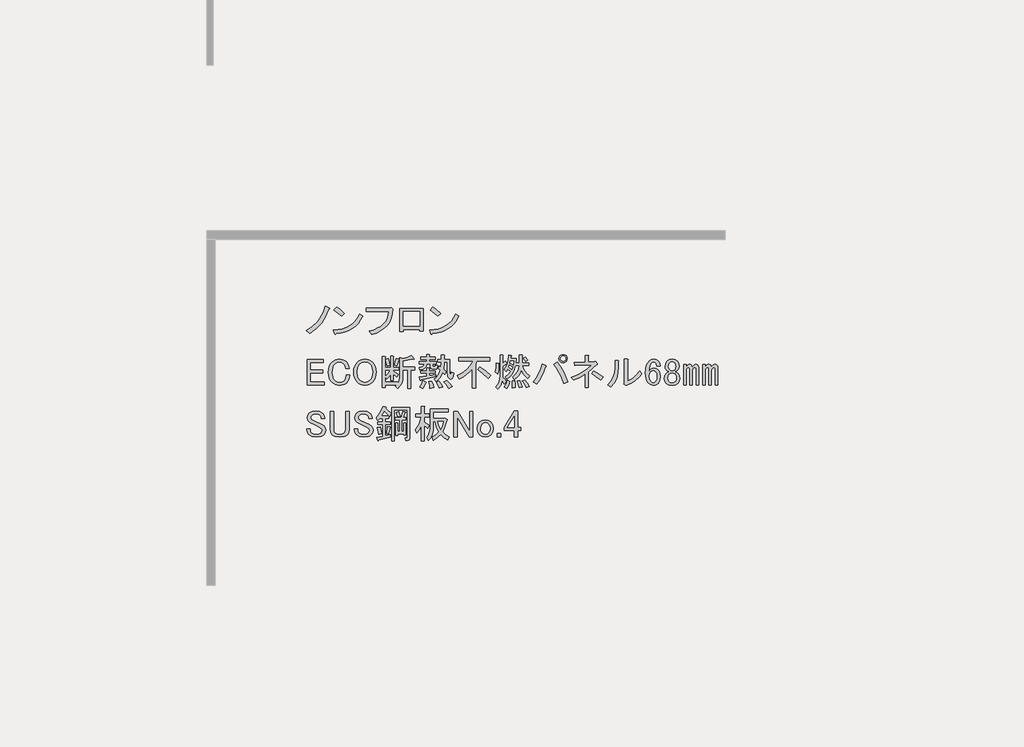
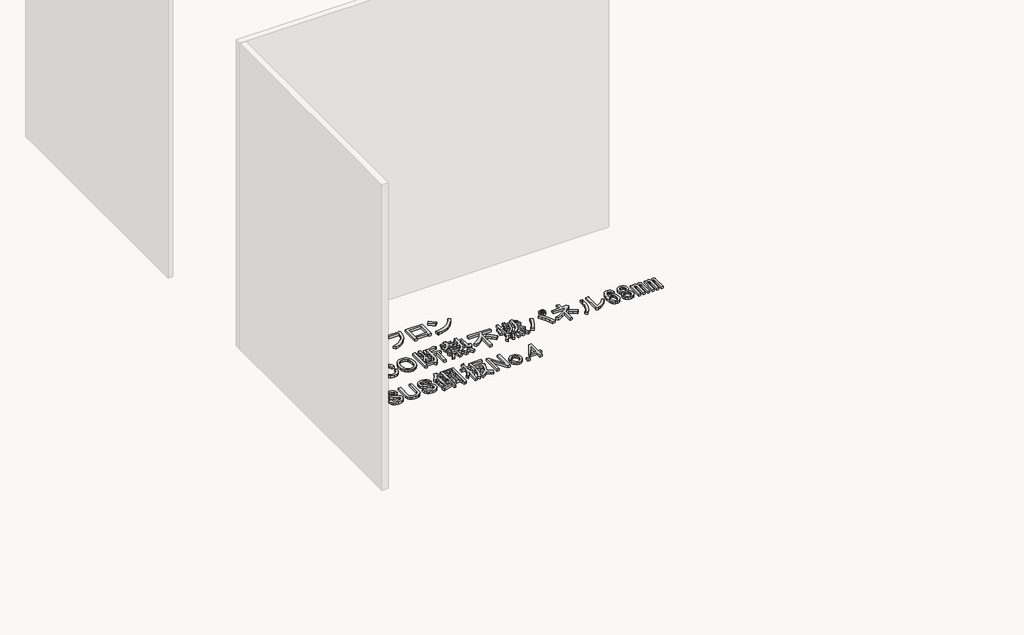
# One storey, part 106 of 117: 1 proxy.
"""IFC4 building model written with IfcOpenShell, lengths in millimetres."""

from ifc_helpers import new_model, si_unit, frame, origin, place, context, project, spatial, polyline, outline, extrude, element, save

model = new_model("IFC4")

# Units and contexts
model_context = context("Model", 3, world=origin())
ifc_project = project(units=[si_unit("LENGTHUNIT", "METRE", prefix="MILLI")], contexts=[model_context])

# Site, building, storey
site = spatial("IfcSite", under=ifc_project)
building = spatial("IfcBuilding", under=site)
storey = spatial("IfcBuildingStorey", under=building, Name="レベル 1", Elevation=500.0)

# Proxy
placement = place(None, origin())
element("IfcBuildingElementProxy", 1, Name="200㎜\u3000MS Pゴシック", ObjectType="200㎜\u3000MS Pゴシック", at=placement, inside=storey, context=model_context, shape_type="SweptSolid", body=[
    extrude(outline(polyline([(48940.1706985, 3396.4503118), (48914.5952502, 3336.6784775), (48886.146156, 3290.7001434), (48844.4782907, 3245.2965385), (48795.3389462, 3207.939142), (48767.7519457, 3229.7788507), (48815.4544673, 3260.2394971), (48855.1107805, 3298.7463519), (48872.4963381, 3322.6694538), (48887.8703435, 3350.7593423), (48901.2327969, 3383.0160173), (48912.5836981, 3419.4394788), (48943.6190736, 3405.6459786), (48946.7800841, 3401.0481452), (48940.1706985, 3396.4503118)])), frame((0.0, 0.0, 500.0), z_axis=(0.0, 0.0, 1.0), x_axis=(1.0, 0.0, 0.0)), (0.0, 0.0, 1.0), 25.0),
    extrude(outline(polyline([(49039.8977052, 3341.2763109), (48981.2753292, 3388.4041033), (49000.8161212, 3412.5427287), (49028.1157571, 3392.7145721), (49061.7374138, 3363.1160196), (49039.8977052, 3341.2763109)])), frame((0.0, 0.0, 500.0), z_axis=(0.0, 0.0, 1.0), x_axis=(1.0, 0.0, 0.0)), (0.0, 0.0, 1.0), 25.0),
    extrude(outline(polyline([(49201.9713328, 3341.2763109), (49185.447869, 3311.534076), (49166.3381239, 3285.5275808), (49144.6420975, 3263.2568252), (49120.3597898, 3244.7218093), (49093.4912008, 3229.922533), (49064.0363306, 3218.8589964), (49031.995179, 3211.5311994), (48997.3677461, 3207.939142), (48991.6204544, 3199.8929336), (48985.8731626, 3205.6402253), (48976.6774958, 3235.5261425), (49012.5082679, 3238.2022252), (49045.2857912, 3244.5062859), (49075.0100658, 3254.4383244), (49101.6810916, 3267.9983409), (49125.2988687, 3285.1863354), (49145.863397, 3306.0023077), (49163.3746766, 3330.446258), (49177.8327074, 3358.5181862), (49201.9713328, 3341.2763109)])), frame((0.0, 0.0, 500.0), z_axis=(0.0, 0.0, 1.0), x_axis=(1.0, 0.0, 0.0)), (0.0, 0.0, 1.0), 25.0),
    extrude(outline(polyline([(49252.7314136, 3226.3304757), (49286.514713, 3236.0110702), (49316.0234641, 3248.3857078), (49341.257667, 3263.4543884), (49362.2173217, 3281.217112), (49378.902428, 3301.6738786), (49391.3129862, 3324.8246882), (49399.4489961, 3350.6695409), (49403.3104577, 3379.2084365), (49230.8917049, 3379.2084365), (49230.8917049, 3404.4965202), (49405.6093744, 3404.4965202), (49421.7017914, 3407.9448953), (49434.3458332, 3396.4503118), (49430.825617, 3359.9550091), (49422.5638851, 3326.9080815), (49409.5606375, 3297.3095289), (49391.8158742, 3271.1593514), (49369.3295952, 3248.457549), (49342.1018005, 3229.2041216), (49310.1324901, 3213.3990692), (49273.421664, 3201.0423919), (49252.7314136, 3226.3304757)])), frame((0.0, 0.0, 500.0), z_axis=(0.0, 0.0, 1.0), x_axis=(1.0, 0.0, 0.0)), (0.0, 0.0, 1.0), 25.0),
    extrude(outline(polyline([(49667.455987, 3227.479934), (49641.0184449, 3227.479934), (49641.0184449, 3240.1239759), (49513.4285679, 3240.1239759), (49513.4285679, 3221.7326423), (49486.9910258, 3221.7326423), (49486.9910258, 3401.0481452), (49667.455987, 3401.0481452), (49667.455987, 3227.479934)]), holes=[polyline([(49513.4285679, 3375.7600614), (49513.4285679, 3265.4120596), (49641.0184449, 3265.4120596), (49641.0184449, 3375.7600614), (49513.4285679, 3375.7600614)])]), frame((0.0, 0.0, 500.0), z_axis=(0.0, 0.0, 1.0), x_axis=(1.0, 0.0, 0.0)), (0.0, 0.0, 1.0), 25.0),
    extrude(outline(polyline([(49943.5099049, 3341.2763109), (49926.9864411, 3311.534076), (49907.876696, 3285.5275808), (49886.1806696, 3263.2568252), (49861.8983619, 3244.7218093), (49835.0297729, 3229.922533), (49805.5749026, 3218.8589964), (49773.5337511, 3211.5311994), (49738.9063182, 3207.939142), (49733.1590264, 3199.8929336), (49727.4117347, 3205.6402253), (49718.2160679, 3235.5261425), (49754.0468399, 3238.2022252), (49786.8243633, 3244.5062859), (49816.5486378, 3254.4383244), (49843.2196637, 3267.9983409), (49866.8374407, 3285.1863354), (49887.4019691, 3306.0023077), (49904.9132486, 3330.446258), (49919.3712795, 3358.5181862), (49943.5099049, 3341.2763109)])), frame((0.0, 0.0, 500.0), z_axis=(0.0, 0.0, 1.0), x_axis=(1.0, 0.0, 0.0)), (0.0, 0.0, 1.0), 25.0),
    extrude(outline(polyline([(49781.4362772, 3341.2763109), (49722.8139013, 3388.4041033), (49742.3546933, 3412.5427287), (49769.6543291, 3392.7145721), (49803.2759859, 3363.1160196), (49781.4362772, 3341.2763109)])), frame((0.0, 0.0, 500.0), z_axis=(0.0, 0.0, 1.0), x_axis=(1.0, 0.0, 0.0)), (0.0, 0.0, 1.0), 25.0),
    extrude(outline(polyline([(48773.4992375, 3007.9448953), (48899.9396562, 3007.9448953), (48899.9396562, 2986.1051866), (48799.9367796, 2986.1051866), (48799.9367796, 2925.183894), (48893.0429061, 2925.183894), (48893.0429061, 2903.3441853), (48799.9367796, 2903.3441853), (48799.9367796, 2833.2272258), (48905.686948, 2833.2272258), (48905.686948, 2811.3875171), (48773.4992375, 2811.3875171), (48773.4992375, 3007.9448953)])), frame((0.0, 0.0, 500.0), z_axis=(0.0, 0.0, 1.0), x_axis=(1.0, 0.0, 0.0)), (0.0, 0.0, 1.0), 25.0),
    extrude(outline(polyline([(48937.7798252, 2909.091477), (48939.5758538, 2933.014579), (48944.9639399, 2954.2077173), (48953.9440832, 2972.6708921), (48966.516284, 2988.4041033), (48991.5170031, 3004.7838848), (49022.8397432, 3010.243812), (49053.5877541, 3005.358614), (49076.8642858, 2990.70302), (49092.6693381, 2967.1391238), (49098.7039944, 2937.8279358), (49071.116994, 2937.8279358), (49066.231796, 2959.0929153), (49056.1740354, 2974.6106031), (49040.9437123, 2984.9557283), (49022.8397432, 2988.4041033), (49003.2989512, 2984.3809991), (48986.0570759, 2972.3116864), (48977.0050914, 2960.6015794), (48970.5393882, 2946.1615089), (48965.3668256, 2909.091477), (48970.5393882, 2872.0214452), (48977.0050914, 2857.5813746), (48986.0570759, 2845.8712677), (49002.7242221, 2834.6640487), (49022.8397432, 2830.9283091), (49043.242629, 2834.0893196), (49058.4729521, 2843.572351), (49070.5422648, 2863.1131429), (49074.5653691, 2889.550685), (49102.1523695, 2889.550685), (49095.8303486, 2854.7795699), (49088.7899162, 2840.6268639), (49079.1632025, 2828.6293924), (49068.3151893, 2820.0802959), (49055.3119417, 2813.9737984), (49022.8397432, 2809.0886004), (48991.5170031, 2814.5485276), (48966.516284, 2830.9283091), (48953.9440832, 2846.5896791), (48944.9639399, 2864.8373305), (48939.5758538, 2885.6712631), (48937.7798252, 2909.091477)])), frame((0.0, 0.0, 500.0), z_axis=(0.0, 0.0, 1.0), x_axis=(1.0, 0.0, 0.0)), (0.0, 0.0, 1.0), 25.0),
    extrude(outline(polyline([(49133.1417667, 2910.2409354), (49134.8659542, 2933.0864201), (49140.0385168, 2953.3456236), (49148.6594544, 2971.0185457), (49160.7287671, 2986.1051866), (49173.4446501, 2996.6658352), (49187.4536738, 3004.2091557), (49202.7558381, 3008.7351479), (49219.3511431, 3010.243812), (49235.946448, 3008.7351479), (49251.2486123, 3004.2091557), (49265.257636, 2996.6658352), (49277.973519, 2986.1051866), (49290.0428317, 2971.0185457), (49298.6637694, 2953.3456236), (49303.836332, 2933.0864201), (49305.5605195, 2910.2409354), (49303.836332, 2887.3954506), (49298.6637694, 2867.1362472), (49290.0428317, 2849.463325), (49277.973519, 2834.3766841), (49265.257636, 2823.8160355), (49251.2486123, 2816.2727151), (49235.946448, 2811.7467228), (49219.3511431, 2810.2380587), (49202.7558381, 2811.7467228), (49187.4536738, 2816.2727151), (49173.4446501, 2823.8160355), (49160.7287671, 2834.3766841), (49148.6594544, 2849.463325), (49140.0385168, 2867.1362472), (49134.8659542, 2887.3954506), (49133.1417667, 2910.2409354)]), holes=[polyline([(49219.3511431, 2988.4041033), (49198.6608927, 2984.0936345), (49180.2695591, 2971.162228), (49171.7204626, 2960.0268502), (49165.6139651, 2946.1615089), (49160.7287671, 2910.2409354), (49165.6139651, 2874.3203619), (49171.7204626, 2860.4550205), (49180.2695591, 2849.3196427), (49198.6608927, 2836.3882363), (49219.3511431, 2832.0777674), (49240.0413934, 2836.3882363), (49258.432727, 2849.3196427), (49266.9818235, 2860.4550205), (49273.088321, 2874.3203619), (49277.973519, 2910.2409354), (49273.088321, 2946.1615089), (49266.9818235, 2960.0268502), (49258.432727, 2971.162228), (49240.0413934, 2984.0936345), (49219.3511431, 2988.4041033)])]), frame((0.0, 0.0, 500.0), z_axis=(0.0, 0.0, 1.0), x_axis=(1.0, 0.0, 0.0)), (0.0, 0.0, 1.0), 25.0),
    extrude(outline(polyline([(49444.3691101, 2964.2654779), (49461.6109854, 3017.1405621), (49482.3012357, 3011.3932704), (49484.0254232, 3008.2322599), (49480.002319, 3005.6459786), (49462.7604437, 2957.3687278), (49444.3691101, 2964.2654779)])), frame((0.0, 0.0, 500.0), z_axis=(0.0, 0.0, 1.0), x_axis=(1.0, 0.0, 0.0)), (0.0, 0.0, 1.0), 25.0),
    extrude(outline(polyline([(49598.3965292, 3012.5427287), (49596.6723417, 3007.9448953), (49589.2008624, 3010.243812), (49512.1871528, 2997.5997701), (49512.1871528, 2948.173061), (49604.143821, 2948.173061), (49604.143821, 2926.3333523), (49573.1084455, 2926.3333523), (49573.1084455, 2786.0994334), (49550.1192785, 2786.0994334), (49550.1192785, 2926.3333523), (49512.1871528, 2926.3333523), (49512.1871528, 2876.9066432), (49509.6008716, 2849.1041193), (49501.8420277, 2824.3189236), (49488.9106212, 2802.551056), (49470.8066522, 2783.8005167), (49453.5647769, 2803.3413086), (49463.9099021, 2812.5369755), (49374.2521506, 2812.5369755), (49374.2521506, 2790.6972668), (49351.2629836, 2790.6972668), (49351.2629836, 3029.784604), (49373.1026922, 3029.784604), (49377.9878902, 3027.4856873), (49374.2521506, 3022.8878539), (49374.2521506, 2947.0236026), (49416.7821096, 2947.0236026), (49416.7821096, 3034.3824374), (49435.1734433, 3034.3824374), (49440.0586413, 3032.0835207), (49436.3229016, 3027.4856873), (49436.3229016, 2947.0236026), (49480.002319, 2947.0236026), (49480.002319, 2928.632269), (49436.3229016, 2928.632269), (49436.3229016, 2919.4366022), (49476.5539439, 2892.9990601), (49462.7604437, 2871.1593514), (49436.3229016, 2897.5968935), (49436.3229016, 2844.7218093), (49416.7821096, 2844.7218093), (49416.7821096, 2892.9990601), (49403.5633386, 2873.1709035), (49389.1951092, 2857.3658512), (49376.5510673, 2875.7571848), (49398.390776, 2899.8958102), (49415.6326513, 2928.632269), (49374.2521506, 2928.632269), (49374.2521506, 2834.3766841), (49471.9561105, 2834.3766841), (49471.9561105, 2820.5831839), (49484.887517, 2844.7218093), (49489.1979858, 2878.0561015), (49489.1979858, 3022.8878539), (49511.0376945, 3017.1405621), (49547.2456326, 3024.6120414), (49577.7062789, 3037.8308125), (49598.3965292, 3012.5427287)])), frame((0.0, 0.0, 500.0), z_axis=(0.0, 0.0, 1.0), x_axis=(1.0, 0.0, 0.0)), (0.0, 0.0, 1.0), 25.0),
    extrude(outline(polyline([(49390.3445675, 2956.2192695), (49377.7005257, 3006.7954369), (49397.2413176, 3013.6921871), (49405.0001615, 2989.5535617), (49409.8853595, 2963.1160196), (49390.3445675, 2956.2192695)])), frame((0.0, 0.0, 500.0), z_axis=(0.0, 0.0, 1.0), x_axis=(1.0, 0.0, 0.0)), (0.0, 0.0, 1.0), 25.0),
    extrude(outline(polyline([(49734.0326148, 2840.1239759), (49744.0903754, 2812.82434), (49748.9755734, 2790.6972668), (49720.2391146, 2784.949975), (49717.6528333, 2806.5023191), (49709.8939894, 2836.6756008), (49734.0326148, 2840.1239759)])), frame((0.0, 0.0, 500.0), z_axis=(0.0, 0.0, 1.0), x_axis=(1.0, 0.0, 0.0)), (0.0, 0.0, 1.0), 25.0),
    extrude(outline(polyline([(49790.356074, 2787.2488917), (49782.022501, 2811.9622463), (49768.5163654, 2833.2272258), (49789.2066157, 2841.2734343), (49806.1611264, 2819.7210902), (49817.9430745, 2796.4445585), (49790.356074, 2787.2488917)])), frame((0.0, 0.0, 500.0), z_axis=(0.0, 0.0, 1.0), x_axis=(1.0, 0.0, 0.0)), (0.0, 0.0, 1.0), 25.0),
    extrude(outline(polyline([(49689.2037391, 2835.5261425), (49692.6521141, 2830.6409445), (49686.9048224, 2827.479934), (49677.1344264, 2801.9044857), (49666.214572, 2782.6510583), (49643.225405, 2794.1456418), (49655.8694469, 2817.709538), (49666.214572, 2844.7218093), (49689.2037391, 2835.5261425)])), frame((0.0, 0.0, 500.0), z_axis=(0.0, 0.0, 1.0), x_axis=(1.0, 0.0, 0.0)), (0.0, 0.0, 1.0), 25.0),
    extrude(outline(polyline([(49721.3885729, 2972.3116864), (49696.1004892, 2972.3116864), (49691.5026558, 2954.8542877), (49681.1575306, 2941.5636755), (49665.0651137, 2932.4398498), (49643.225405, 2927.4828107), (49638.6275716, 2947.0236026), (49663.9156553, 2955.6445403), (49671.3871346, 2962.9723373), (49675.4102388, 2972.3116864), (49639.7770299, 2972.3116864), (49639.7770299, 2990.70302), (49693.8015725, 2990.70302), (49693.8015725, 3007.9448953), (49650.1221551, 3007.9448953), (49650.1221551, 3026.3362289), (49693.8015725, 3026.3362289), (49693.8015725, 3044.7275626), (49715.6412812, 3044.7275626), (49720.5264792, 3042.4286459), (49716.7907395, 3037.8308125), (49716.7907395, 3026.3362289), (49759.3206985, 3026.3362289), (49759.3206985, 3007.9448953), (49716.7907395, 3007.9448953), (49716.7907395, 2990.70302), (49769.6658237, 2990.70302), (49769.6658237, 2972.3116864), (49740.9293649, 2972.3116864), (49740.9293649, 2959.6676445), (49742.3661878, 2954.4950819), (49746.6766567, 2952.7708944), (49757.0217818, 2952.7708944), (49760.7575215, 2955.9319049), (49760.4701569, 2965.4149363), (49780.0109489, 2963.1160196), (49777.137303, 2941.5636755), (49771.8210581, 2936.1755894), (49763.9185319, 2934.3795608), (49739.7799066, 2934.3795608), (49725.9864063, 2939.2647588), (49721.3885729, 2953.9203528), (49721.3885729, 2972.3116864)])), frame((0.0, 0.0, 500.0), z_axis=(0.0, 0.0, 1.0), x_axis=(1.0, 0.0, 0.0)), (0.0, 0.0, 1.0), 25.0),
    extrude(outline(polyline([(49852.4268251, 2989.5535617), (49830.5871164, 2989.5535617), (49825.989283, 2932.0806441), (49845.5300749, 2913.6893104), (49835.1849498, 2891.8496017), (49819.0925328, 2907.9420187), (49799.8391054, 2870.2972576), (49769.6658237, 2837.8250592), (49752.4239484, 2858.5153095), (49767.5105893, 2870.4409399), (49780.585678, 2885.5275808), (49791.6492147, 2903.7752321), (49800.7011992, 2925.183894), (49783.4593239, 2940.1268525), (49791.5055324, 2957.3687278), (49805.2990326, 2947.0236026), (49807.5979493, 2989.5535617), (49780.0109489, 2989.5535617), (49780.0109489, 3007.9448953), (49807.5979493, 3007.9448953), (49807.5979493, 3042.4286459), (49829.437658, 3042.4286459), (49834.322856, 3040.1297292), (49830.5871164, 3035.5318957), (49830.5871164, 3007.9448953), (49871.967617, 3007.9448953), (49871.967617, 2911.3903937), (49875.4159921, 2887.2517683), (49878.6488437, 2885.2402162), (49881.4506484, 2888.4012267), (49885.7611173, 2910.2409354), (49905.3019092, 2903.3441853), (49900.775917, 2876.5474374), (49892.945232, 2860.5268616), (49881.8098542, 2855.2824579), (49867.3697836, 2860.8142262), (49860.8322393, 2868.1420232), (49856.1625647, 2879.780289), (49852.4268251, 2915.9882271), (49852.4268251, 2989.5535617)])), frame((0.0, 0.0, 500.0), z_axis=(0.0, 0.0, 1.0), x_axis=(1.0, 0.0, 0.0)), (0.0, 0.0, 1.0), 25.0),
    extrude(outline(polyline([(49651.2716134, 2850.4691011), (49649.2600613, 2845.5839031), (49645.5243217, 2847.020726), (49639.7770299, 2871.1593514), (49694.9510308, 2879.2055599), (49694.9510308, 2902.1947269), (49651.2716134, 2902.1947269), (49651.2716134, 2920.5860605), (49694.9510308, 2920.5860605), (49694.9510308, 2943.5752276), (49713.3423645, 2943.5752276), (49718.2275625, 2941.2763109), (49714.4918228, 2936.6784775), (49714.4918228, 2920.5860605), (49759.3206985, 2920.5860605), (49759.3206985, 2902.1947269), (49714.4918228, 2902.1947269), (49714.4918228, 2882.6539349), (49765.0679903, 2891.8496017), (49765.0679903, 2875.7571848), (49651.2716134, 2850.4691011)])), frame((0.0, 0.0, 500.0), z_axis=(0.0, 0.0, 1.0), x_axis=(1.0, 0.0, 0.0)), (0.0, 0.0, 1.0), 25.0),
    extrude(outline(polyline([(49848.97845, 2845.8712677), (49873.6918046, 2824.6062881), (49892.6578674, 2799.8929336), (49866.2203253, 2784.949975), (49846.9668979, 2814.5485276), (49828.2881997, 2834.3766841), (49848.97845, 2845.8712677)])), frame((0.0, 0.0, 500.0), z_axis=(0.0, 0.0, 1.0), x_axis=(1.0, 0.0, 0.0)), (0.0, 0.0, 1.0), 25.0),
    extrude(outline(polyline([(50167.3784135, 2861.9636846), (50128.2968295, 2900.1831748), (50086.9163289, 2929.7817274), (50103.0087458, 2950.4719777), (50146.6881632, 2922.3102481), (50188.0686638, 2883.8033933), (50167.3784135, 2861.9636846)])), frame((0.0, 0.0, 500.0), z_axis=(0.0, 0.0, 1.0), x_axis=(1.0, 0.0, 0.0)), (0.0, 0.0, 1.0), 25.0),
    extrude(outline(polyline([(49940.9351182, 3022.8878539), (50182.3213721, 3022.8878539), (50182.3213721, 2997.5997701), (50082.3184955, 2997.5997701), (50071.9733703, 2973.4611447), (50071.9733703, 2787.2488917), (50045.5358282, 2787.2488917), (50045.5358282, 2934.3795608), (50024.7018956, 2911.1030291), (50001.2816816, 2890.7001434), (49975.2751864, 2873.1709035), (49946.6824099, 2858.5153095), (49930.589993, 2884.9528516), (49970.174465, 2905.3557374), (50003.8679629, 2930.9311857), (50031.6704868, 2961.6791966), (50053.5820367, 2997.5997701), (49940.9351182, 2997.5997701), (49940.9351182, 3022.8878539)])), frame((0.0, 0.0, 500.0), z_axis=(0.0, 0.0, 1.0), x_axis=(1.0, 0.0, 0.0)), (0.0, 0.0, 1.0), 25.0),
    extrude(outline(polyline([(50354.7401249, 2788.3983501), (50355.3148541, 2815.4106213), (50352.4412082, 2843.572351), (50371.9820002, 2844.7218093), (50378.3040211, 2818.5716318), (50378.8787503, 2790.6972668), (50354.7401249, 2788.3983501)])), frame((0.0, 0.0, 500.0), z_axis=(0.0, 0.0, 1.0), x_axis=(1.0, 0.0, 0.0)), (0.0, 0.0, 1.0), 25.0),
    extrude(outline(polyline([(50335.1993329, 2840.1239759), (50326.5783953, 2809.6633296), (50312.2101659, 2782.6510583), (50292.6693739, 2795.2951002), (50306.7502387, 2820.0084547), (50316.8079993, 2848.1701844), (50335.1993329, 2840.1239759)])), frame((0.0, 0.0, 500.0), z_axis=(0.0, 0.0, 1.0), x_axis=(1.0, 0.0, 0.0)), (0.0, 0.0, 1.0), 25.0),
    extrude(outline(polyline([(50250.1394149, 2978.0589781), (50254.7372483, 2975.7600614), (50250.1394149, 2971.162228), (50248.9899565, 2931.5059149), (50243.2426647, 2897.5968935), (50224.8513311, 2910.2409354), (50230.5986229, 2944.7246859), (50231.7480812, 2981.5073532), (50250.1394149, 2978.0589781)])), frame((0.0, 0.0, 500.0), z_axis=(0.0, 0.0, 1.0), x_axis=(1.0, 0.0, 0.0)), (0.0, 0.0, 1.0), 25.0),
    extrude(outline(polyline([(50301.8650407, 2996.4503118), (50311.0607075, 2979.2084365), (50312.4975305, 2973.1737801), (50307.6123325, 2973.4611447), (50281.1747904, 2952.7708944), (50281.1747904, 2868.8604347), (50294.9682906, 2856.5037574), (50306.4628741, 2840.1239759), (50293.8188322, 2819.4337256), (50275.4274986, 2844.7218093), (50263.6455505, 2808.8012358), (50242.0932064, 2779.2026832), (50227.1502478, 2797.5940169), (50242.2368887, 2816.3445562), (50253.0130607, 2836.9629654), (50259.478764, 2859.4492444), (50261.6339984, 2883.8033933), (50261.6339984, 3041.2791875), (50280.025332, 3041.2791875), (50284.91053, 3038.9802708), (50281.1747904, 3034.3824374), (50281.1747904, 2975.7600614), (50301.8650407, 2996.4503118)])), frame((0.0, 0.0, 500.0), z_axis=(0.0, 0.0, 1.0), x_axis=(1.0, 0.0, 0.0)), (0.0, 0.0, 1.0), 25.0),
    extrude(outline(polyline([(50452.4440848, 3027.4856873), (50474.2837935, 3003.3470619), (50457.0419182, 2991.8524784), (50450.4325327, 3003.3470619), (50437.5011262, 3017.1405621), (50452.4440848, 3027.4856873)])), frame((0.0, 0.0, 500.0), z_axis=(0.0, 0.0, 1.0), x_axis=(1.0, 0.0, 0.0)), (0.0, 0.0, 1.0), 25.0),
    extrude(outline(polyline([(50462.78921, 2790.6972668), (50449.5704389, 2818.8589964), (50432.9032928, 2843.572351), (50451.2946265, 2851.6185594), (50470.2606893, 2828.6293924), (50485.778377, 2801.0423919), (50462.78921, 2790.6972668)])), frame((0.0, 0.0, 500.0), z_axis=(0.0, 0.0, 1.0), x_axis=(1.0, 0.0, 0.0)), (0.0, 0.0, 1.0), 25.0),
    extrude(outline(polyline([(50413.3625008, 2845.8712677), (50431.7538345, 2796.4445585), (50407.6152091, 2791.8467251), (50393.8217089, 2842.4228926), (50413.3625008, 2845.8712677)])), frame((0.0, 0.0, 500.0), z_axis=(0.0, 0.0, 1.0), x_axis=(1.0, 0.0, 0.0)), (0.0, 0.0, 1.0), 25.0),
    extrude(outline(polyline([(50474.2837935, 2860.8142262), (50443.5357826, 2891.2748726), (50422.5581677, 2925.183894), (50414.1527535, 2903.0568207), (50402.7300111, 2883.8033933), (50388.2899405, 2867.4236118), (50370.8325418, 2853.9174761), (50357.0390416, 2872.3088098), (50377.8729742, 2891.2030314), (50393.2469797, 2912.2524875), (50403.161058, 2935.457178), (50407.6152091, 2960.8171029), (50378.8787503, 2960.8171029), (50370.904383, 2930.2127742), (50357.3264062, 2902.7694561), (50338.1448199, 2878.4871484), (50313.3596242, 2857.3658512), (50300.7155823, 2873.4582681), (50326.5783953, 2895.0106122), (50342.096083, 2915.9882271), (50320.2563743, 2935.5290191), (50306.4628741, 2914.8387688), (50292.6693739, 2929.7817274), (50305.0978923, 2948.8196313), (50314.7964472, 2973.7485093), (50321.7650384, 3004.5683614), (50326.0036661, 3041.2791875), (50346.6939164, 3038.9802708), (50350.1422915, 3036.3939895), (50344.3949997, 3033.232979), (50342.096083, 3014.8416454), (50385.7755004, 3014.8416454), (50382.3271253, 2979.2084365), (50407.6152091, 2979.2084365), (50407.6152091, 3041.2791875), (50429.4549178, 3041.2791875), (50434.3401158, 3038.9802708), (50430.6043761, 3034.3824374), (50430.6043761, 2979.2084365), (50480.0310853, 2979.2084365), (50480.0310853, 2960.8171029), (50430.6043761, 2960.8171029), (50437.1419205, 2939.0492353), (50448.7083452, 2918.5745084), (50465.3036501, 2899.3929222), (50486.9278354, 2881.5044766), (50474.2837935, 2860.8142262)]), holes=[polyline([(50350.1422915, 2930.9311857), (50357.0390416, 2950.4719777), (50331.7509579, 2966.5643946), (50326.0036661, 2949.3225193), (50350.1422915, 2930.9311857)]), polyline([(50339.7971663, 2996.4503118), (50336.3487913, 2980.3578948), (50361.636875, 2966.5643946), (50366.2347084, 2996.4503118), (50339.7971663, 2996.4503118)])]), frame((0.0, 0.0, 500.0), z_axis=(0.0, 0.0, 1.0), x_axis=(1.0, 0.0, 0.0)), (0.0, 0.0, 1.0), 25.0),
    extrude(outline(polyline([(50699.5776305, 2987.254645), (50726.230696, 2950.5438188), (50748.7169751, 2912.8272167), (50767.0364675, 2874.1048384), (50781.1891735, 2834.3766841), (50750.153798, 2824.031559), (50734.7079514, 2867.1362472), (50717.1068704, 2905.643102), (50697.350555, 2939.5521234), (50675.4390051, 2968.8633113), (50699.5776305, 2987.254645)])), frame((0.0, 0.0, 500.0), z_axis=(0.0, 0.0, 1.0), x_axis=(1.0, 0.0, 0.0)), (0.0, 0.0, 1.0), 25.0),
    extrude(outline(polyline([(50612.2187958, 2960.8171029), (50616.2419, 2955.3571757), (50609.919879, 2950.4719777), (50597.9942486, 2915.0542922), (50582.9076078, 2881.217112), (50564.6599564, 2848.960437), (50543.2512946, 2818.2842672), (50516.8137525, 2835.5261425), (50540.018443, 2866.9925649), (50559.056347, 2900.4705394), (50573.9274644, 2935.960066), (50584.6317953, 2973.4611447), (50612.2187958, 2960.8171029)])), frame((0.0, 0.0, 500.0), z_axis=(0.0, 0.0, 1.0), x_axis=(1.0, 0.0, 0.0)), (0.0, 0.0, 1.0), 25.0),
    extrude(outline(polyline([(50745.5559646, 2981.5073532), (50732.9119227, 2983.8062699), (50722.5667975, 2990.70302), (50715.6700474, 3001.0481452), (50713.3711307, 3013.6921871), (50715.6700474, 3026.3362289), (50722.5667975, 3036.6813541), (50732.9119227, 3043.5781042), (50745.5559646, 3045.8770209), (50758.2000065, 3043.5781042), (50768.5451316, 3036.6813541), (50775.4418817, 3026.3362289), (50777.7407984, 3013.6921871), (50775.4418817, 3001.0481452), (50768.5451316, 2990.70302), (50758.2000065, 2983.8062699), (50745.5559646, 2981.5073532)]), holes=[polyline([(50745.5559646, 2993.0019367), (50753.8895376, 2994.4387597), (50760.4989232, 2998.7492285), (50764.809392, 3005.358614), (50766.2462149, 3013.6921871), (50764.809392, 3022.0257601), (50760.4989232, 3028.6351456), (50753.8895376, 3032.9456145), (50745.5559646, 3034.3824374), (50737.2223915, 3032.9456145), (50730.613006, 3028.6351456), (50726.3025372, 3022.0257601), (50724.8657143, 3013.6921871), (50726.3025372, 3005.358614), (50730.613006, 2998.7492285), (50737.2223915, 2994.4387597), (50745.5559646, 2993.0019367)])]), frame((0.0, 0.0, 500.0), z_axis=(0.0, 0.0, 1.0), x_axis=(1.0, 0.0, 0.0)), (0.0, 0.0, 1.0), 25.0),
    extrude(outline(polyline([(50989.2411352, 2991.8524784), (50996.1378853, 2994.1513951), (51008.7819272, 2976.9095198), (51009.9313856, 2970.8748634), (51004.1840938, 2968.8633113), (50940.9638844, 2912.5398521), (50940.9638844, 2791.8467251), (50914.5263423, 2791.8467251), (50914.5263423, 2894.1485184), (50874.2953, 2870.0098931), (50829.4664243, 2848.1701844), (50809.9256323, 2868.8604347), (50855.4729195, 2888.3293855), (50896.7097379, 2911.1030291), (50933.6360874, 2937.1813655), (50966.2519682, 2966.5643946), (50836.3631744, 2960.8171029), (50832.9147993, 2986.1051866), (50914.5263423, 2988.4041033), (50914.5263423, 3040.1297292), (50937.5155094, 3040.1297292), (50943.5501657, 3036.6813541), (50940.9638844, 3030.9340623), (50940.9638844, 2989.5535617), (50989.2411352, 2991.8524784)])), frame((0.0, 0.0, 500.0), z_axis=(0.0, 0.0, 1.0), x_axis=(1.0, 0.0, 0.0)), (0.0, 0.0, 1.0), 25.0),
    extrude(outline(polyline([(51035.2194693, 2848.1701844), (50998.1494375, 2877.4813723), (50965.1025098, 2898.7463519), (50982.3443851, 2920.5860605), (51021.1386045, 2897.3095289), (51054.7602613, 2871.1593514), (51035.2194693, 2848.1701844)])), frame((0.0, 0.0, 500.0), z_axis=(0.0, 0.0, 1.0), x_axis=(1.0, 0.0, 0.0)), (0.0, 0.0, 1.0), 25.0),
    extrude(outline(polyline([(51242.2139293, 2841.2734343), (51266.9991251, 2853.4864292), (51290.7785447, 2870.5846222), (51313.5521883, 2892.5680132), (51335.3200559, 2919.4366022), (51351.4124728, 2897.5968935), (51328.1359412, 2869.7943696), (51301.9857636, 2846.1586322), (51272.9619403, 2826.6896814), (51241.064471, 2811.3875171), (51231.8688042, 2806.7896837), (51213.4774705, 2820.5831839), (51215.7763872, 2826.3304757), (51215.7763872, 3011.3932704), (51239.9150126, 3011.3932704), (51245.6623044, 3007.9448953), (51242.2139293, 3002.1976035), (51242.2139293, 2841.2734343)])), frame((0.0, 0.0, 500.0), z_axis=(0.0, 0.0, 1.0), x_axis=(1.0, 0.0, 0.0)), (0.0, 0.0, 1.0), 25.0),
    extrude(outline(polyline([(51088.1865102, 2810.2380587), (51113.3309116, 2839.4774056), (51131.2911984, 2872.0214452), (51142.0673704, 2907.8701775), (51145.6594278, 2947.0236026), (51145.6594278, 2998.7492285), (51169.7980532, 2998.7492285), (51175.5453449, 2995.3008534), (51172.0969699, 2989.5535617), (51172.0969699, 2948.173061), (51168.2893891, 2902.4102504), (51156.8666467, 2861.67632), (51137.8287427, 2825.9712699), (51111.1756772, 2795.2951002), (51088.1865102, 2810.2380587)])), frame((0.0, 0.0, 500.0), z_axis=(0.0, 0.0, 1.0), x_axis=(1.0, 0.0, 0.0)), (0.0, 0.0, 1.0), 25.0),
    extrude(outline(polyline([(51380.1489316, 2905.643102), (51381.8731191, 2935.0261311), (51387.0456817, 2959.9550091), (51395.6666193, 2980.429736), (51407.735932, 2996.4503118), (51423.2536198, 3006.7954369), (51442.2196826, 3010.243812), (51462.0478392, 3006.7954369), (51477.8528915, 2996.4503118), (51489.0601104, 2979.4958011), (51492.7958501, 2958.5181862), (51466.358308, 2958.5181862), (51464.6341205, 2972.3116864), (51459.4615579, 2981.5073532), (51451.702714, 2986.6799158), (51442.2196826, 2988.4041033), (51432.7366512, 2986.6799158), (51424.9778073, 2981.5073532), (51416.9315989, 2970.5874989), (51411.1843071, 2956.2192695), (51406.5864737, 2917.1376855), (51418.0810572, 2932.0806441), (51429.5756407, 2939.8394879), (51443.3691409, 2942.4257692), (51462.3352038, 2938.9773942), (51477.8528915, 2928.632269), (51490.784298, 2907.0799249), (51495.0947668, 2876.9066432), (51490.4969334, 2845.5839031), (51476.7034332, 2822.8821006), (51460.3236516, 2812.5369755), (51438.7713075, 2809.0886004), (51418.943151, 2813.3990692), (51400.8391819, 2826.3304757), (51391.7871974, 2839.0463587), (51385.3214942, 2856.5037574), (51380.1489316, 2905.643102)]), holes=[polyline([(51441.0702242, 2921.7355189), (51430.4377345, 2919.7239668), (51421.5294323, 2913.6893104), (51412.0464009, 2898.7463519), (51408.8853904, 2879.2055599), (51412.3337654, 2855.0669345), (51422.6788906, 2837.8250592), (51431.0124637, 2831.7904028), (51439.9207659, 2829.7788507), (51449.4037973, 2831.5030383), (51457.1626412, 2836.6756008), (51464.921485, 2851.905924), (51467.5077663, 2876.9066432), (51464.921485, 2899.321081), (51457.1626412, 2913.6893104), (51449.1164327, 2919.7239668), (51441.0702242, 2921.7355189)])]), frame((0.0, 0.0, 500.0), z_axis=(0.0, 0.0, 1.0), x_axis=(1.0, 0.0, 0.0)), (0.0, 0.0, 1.0), 25.0),
    extrude(outline(polyline([(51530.7279757, 2955.0698111), (51534.7510799, 2978.0589781), (51546.8203926, 2996.4503118), (51563.2001741, 3006.7954369), (51584.7525182, 3010.243812), (51606.5922269, 3006.5080724), (51623.8341022, 2995.3008534), (51635.0413212, 2977.7716136), (51638.7770608, 2955.0698111), (51635.3286857, 2936.9658421), (51624.9835606, 2921.7355189), (51611.1900603, 2913.6893104), (51611.1900603, 2911.3903937), (51621.2478209, 2907.3672895), (51630.7308523, 2899.8958102), (51641.0759775, 2883.8033933), (51644.5243526, 2863.1131429), (51640.5012483, 2841.8481634), (51628.4319356, 2824.031559), (51610.040602, 2812.82434), (51584.7525182, 2809.0886004), (51559.4644345, 2812.82434), (51541.0731009, 2824.031559), (51529.0037882, 2841.8481634), (51524.9806839, 2863.1131429), (51528.429059, 2883.8033933), (51538.7741842, 2899.8958102), (51548.2572156, 2907.3672895), (51558.3149762, 2911.3903937), (51558.3149762, 2913.6893104), (51543.3720176, 2924.0344356), (51533.8889862, 2938.1153004), (51530.7279757, 2955.0698111)]), holes=[polyline([(51584.7525182, 2989.5535617), (51574.1200285, 2987.5420095), (51565.2117263, 2981.5073532), (51558.3149762, 2970.3001343), (51556.0160594, 2955.0698111), (51558.3149762, 2940.7015817), (51565.2117263, 2929.7817274), (51573.8326639, 2923.747071), (51583.6030599, 2921.7355189), (51595.6723726, 2923.4597064), (51604.2933102, 2928.632269), (51611.1900603, 2939.8394879), (51613.488977, 2955.0698111), (51611.1900603, 2970.3001343), (51604.2933102, 2981.5073532), (51595.385008, 2987.5420095), (51584.7525182, 2989.5535617)]), polyline([(51584.7525182, 2902.1947269), (51571.2463826, 2899.8958102), (51560.6138929, 2892.9990601), (51553.7171427, 2881.7918412), (51551.418226, 2866.561518), (51554.0045073, 2851.0438302), (51561.7633512, 2838.9745175), (51572.1084764, 2832.0777674), (51584.7525182, 2829.7788507), (51597.3965601, 2832.0777674), (51607.7416853, 2838.9745175), (51615.5005292, 2851.0438302), (51618.0868105, 2866.561518), (51615.5005292, 2882.0792057), (51607.7416853, 2894.1485184), (51597.9712893, 2900.1831748), (51584.7525182, 2902.1947269)])]), frame((0.0, 0.0, 500.0), z_axis=(0.0, 0.0, 1.0), x_axis=(1.0, 0.0, 0.0)), (0.0, 0.0, 1.0), 25.0),
    extrude(outline(polyline([(51692.8016033, 2810.2380587), (51673.2608114, 2810.2380587), (51673.2608114, 2967.713853), (51692.8016033, 2967.713853), (51692.8016033, 2950.4719777), (51704.870916, 2965.9896654), (51718.0896871, 2971.162228), (51727.2853539, 2969.7254051), (51734.182104, 2965.4149363), (51741.0788541, 2951.621436), (51754.0102606, 2966.27703), (51767.5163962, 2971.162228), (51775.8499693, 2969.7254051), (51782.4593548, 2965.4149363), (51787.6319174, 2956.7939986), (51789.3561049, 2944.7246859), (51789.3561049, 2810.2380587), (51769.8153129, 2810.2380587), (51769.8153129, 2934.3795608), (51767.2290316, 2943.8625922), (51759.4701878, 2947.0236026), (51749.1250626, 2942.4257692), (51743.0904062, 2933.8048316), (51741.0788541, 2924.0344356), (51741.0788541, 2810.2380587), (51721.5380621, 2810.2380587), (51721.5380621, 2934.3795608), (51718.9517808, 2943.8625922), (51711.192937, 2947.0236026), (51700.8478118, 2942.4257692), (51694.8131555, 2933.8048316), (51692.8016033, 2924.0344356), (51692.8016033, 2810.2380587)])), frame((0.0, 0.0, 500.0), z_axis=(0.0, 0.0, 1.0), x_axis=(1.0, 0.0, 0.0)), (0.0, 0.0, 1.0), 25.0),
    extrude(outline(polyline([(51914.6470653, 2971.162228), (51922.9806383, 2969.7254051), (51929.5900239, 2965.4149363), (51934.7625864, 2956.7939986), (51936.486774, 2944.7246859), (51936.486774, 2810.2380587), (51916.945982, 2810.2380587), (51916.945982, 2934.3795608), (51914.3597007, 2943.8625922), (51906.6008568, 2947.0236026), (51896.2557317, 2942.4257692), (51890.2210753, 2933.8048316), (51888.2095232, 2924.0344356), (51888.2095232, 2810.2380587), (51868.6687312, 2810.2380587), (51868.6687312, 2934.3795608), (51866.0824499, 2943.8625922), (51858.323606, 2947.0236026), (51847.9784809, 2942.4257692), (51841.9438245, 2933.8048316), (51839.9322724, 2924.0344356), (51839.9322724, 2810.2380587), (51820.3914804, 2810.2380587), (51820.3914804, 2967.713853), (51839.9322724, 2967.713853), (51839.9322724, 2950.4719777), (51852.0015851, 2965.9896654), (51865.2203561, 2971.162228), (51874.416023, 2969.7254051), (51881.3127731, 2965.4149363), (51888.2095232, 2951.621436), (51901.1409296, 2966.27703), (51914.6470653, 2971.162228)])), frame((0.0, 0.0, 500.0), z_axis=(0.0, 0.0, 1.0), x_axis=(1.0, 0.0, 0.0)), (0.0, 0.0, 1.0), 25.0),
    extrude(outline(polyline([(48775.7981542, 2556.2192695), (48779.8212584, 2576.6221552), (48791.8905711, 2594.1513951), (48812.2934569, 2606.2207078), (48841.3172803, 2610.243812), (48872.6400204, 2605.6459786), (48895.3418228, 2591.8524784), (48907.4111355, 2574.3232385), (48911.4342397, 2553.9203528), (48884.9966976, 2553.9203528), (48882.6977809, 2566.5643946), (48875.8010308, 2576.9095198), (48862.5822598, 2584.6683637), (48843.616197, 2587.254645), (48823.2133112, 2584.9557283), (48810.2819048, 2578.0589781), (48804.2472484, 2569.4380405), (48802.2356963, 2559.6676445), (48806.8335297, 2544.7246859), (48827.52378, 2533.2301024), (48887.2956143, 2506.7925603), (48904.5374896, 2495.2979768), (48914.020521, 2481.5044766), (48917.1815315, 2465.4120596), (48913.1584273, 2444.1470801), (48901.0891146, 2426.3304757), (48891.1031951, 2418.7871552), (48878.3873121, 2413.3990692), (48844.7656553, 2409.0886004), (48811.1439985, 2414.261163), (48797.5660217, 2420.7268662), (48786.1432794, 2429.7788507), (48774.9360604, 2448.1701844), (48771.2003208, 2473.4582681), (48797.6378629, 2473.4582681), (48799.9367796, 2455.6416637), (48806.8335297, 2443.572351), (48822.9259466, 2434.0893196), (48845.9151137, 2430.9283091), (48866.8927286, 2433.801955), (48881.5483226, 2442.4228926), (48888.4450727, 2451.6185594), (48890.7439894, 2460.8142262), (48889.0198019, 2470.2972576), (48883.8472393, 2478.0561015), (48865.4559057, 2489.550685), (48835.5699885, 2503.3441853), (48802.2356963, 2518.2871438), (48786.1432794, 2528.632269), (48778.3844355, 2540.7015817), (48775.7981542, 2556.2192695)])), frame((0.0, 0.0, 500.0), z_axis=(0.0, 0.0, 1.0), x_axis=(1.0, 0.0, 0.0)), (0.0, 0.0, 1.0), 25.0),
    extrude(outline(polyline([(48951.2054987, 2607.9448953), (48977.6430408, 2607.9448953), (48977.6430408, 2470.0098931), (48980.2293221, 2455.3542991), (48987.988166, 2443.572351), (49003.5058537, 2434.0893196), (49024.7708332, 2430.9283091), (49046.0358128, 2434.0893196), (49061.5535005, 2443.572351), (49069.3123444, 2455.3542991), (49071.8986257, 2470.0098931), (49071.8986257, 2607.9448953), (49098.3361678, 2607.9448953), (49098.3361678, 2468.8604347), (49094.3130635, 2445.8712677), (49082.2437508, 2427.479934), (49071.7549434, 2419.4337256), (49058.6798546, 2413.6864338), (49024.7708332, 2409.0886004), (48990.8618119, 2413.6864338), (48977.7867231, 2419.4337256), (48967.2979156, 2427.479934), (48955.2286029, 2445.8712677), (48951.2054987, 2468.8604347), (48951.2054987, 2607.9448953)])), frame((0.0, 0.0, 500.0), z_axis=(0.0, 0.0, 1.0), x_axis=(1.0, 0.0, 0.0)), (0.0, 0.0, 1.0), 25.0),
    extrude(outline(polyline([(49140.6822135, 2556.2192695), (49144.7053177, 2576.6221552), (49156.7746304, 2594.1513951), (49177.1775161, 2606.2207078), (49206.2013395, 2610.243812), (49237.5240796, 2605.6459786), (49260.2258821, 2591.8524784), (49272.2951948, 2574.3232385), (49276.318299, 2553.9203528), (49249.8807569, 2553.9203528), (49247.5818402, 2566.5643946), (49240.6850901, 2576.9095198), (49227.466319, 2584.6683637), (49208.5002562, 2587.254645), (49188.0973705, 2584.9557283), (49175.165964, 2578.0589781), (49169.1313077, 2569.4380405), (49167.1197556, 2559.6676445), (49171.717589, 2544.7246859), (49192.4078393, 2533.2301024), (49252.1796736, 2506.7925603), (49269.4215489, 2495.2979768), (49278.9045803, 2481.5044766), (49282.0655908, 2465.4120596), (49278.0424865, 2444.1470801), (49265.9731738, 2426.3304757), (49255.9872544, 2418.7871552), (49243.2713714, 2413.3990692), (49209.6497146, 2409.0886004), (49176.0280578, 2414.261163), (49162.450081, 2420.7268662), (49151.0273386, 2429.7788507), (49139.8201197, 2448.1701844), (49136.0843801, 2473.4582681), (49162.5219222, 2473.4582681), (49164.8208389, 2455.6416637), (49171.717589, 2443.572351), (49187.8100059, 2434.0893196), (49210.7991729, 2430.9283091), (49231.7767879, 2433.801955), (49246.4323819, 2442.4228926), (49253.329132, 2451.6185594), (49255.6280487, 2460.8142262), (49253.9038611, 2470.2972576), (49248.7312986, 2478.0561015), (49230.3399649, 2489.550685), (49200.4540478, 2503.3441853), (49167.1197556, 2518.2871438), (49151.0273386, 2528.632269), (49143.2684948, 2540.7015817), (49140.6822135, 2556.2192695)])), frame((0.0, 0.0, 500.0), z_axis=(0.0, 0.0, 1.0), x_axis=(1.0, 0.0, 0.0)), (0.0, 0.0, 1.0), 25.0),
    extrude(outline(polyline([(49410.3451429, 2568.8633113), (49368.9646422, 2612.5427287), (49347.1249335, 2573.4611447), (49402.2989344, 2573.4611447), (49402.2989344, 2555.0698111), (49375.8613923, 2555.0698111), (49375.8613923, 2526.3333523), (49413.7935179, 2526.3333523), (49413.7935179, 2507.9420187), (49375.8613923, 2507.9420187), (49375.8613923, 2420.5831839), (49414.9429763, 2430.9283091), (49417.241893, 2411.3875171), (49325.2852248, 2386.0994334), (49322.9863081, 2380.3521416), (49318.3884747, 2383.8005167), (49311.4917246, 2406.7896837), (49356.3206003, 2415.9853505), (49356.3206003, 2507.9420187), (49318.3884747, 2507.9420187), (49318.3884747, 2526.3333523), (49356.3206003, 2526.3333523), (49356.3206003, 2555.0698111), (49334.4808916, 2555.0698111), (49319.537933, 2536.6784775), (49306.8938912, 2557.3687278), (49335.0556208, 2595.0134888), (49359.7689754, 2645.8770209), (49381.6086841, 2640.1297292), (49385.0570591, 2636.3939895), (49379.3097674, 2634.3824374), (49378.160309, 2630.9340623), (49422.9891847, 2593.0019367), (49410.3451429, 2568.8633113)])), frame((0.0, 0.0, 500.0), z_axis=(0.0, 0.0, 1.0), x_axis=(1.0, 0.0, 0.0)), (0.0, 0.0, 1.0), 25.0),
    extrude(outline(polyline([(49478.1631856, 2605.6459786), (49485.3473003, 2590.4156554), (49490.8072275, 2570.0127697), (49473.5653522, 2564.2654779), (49462.0707687, 2601.0481452), (49478.1631856, 2605.6459786)])), frame((0.0, 0.0, 500.0), z_axis=(0.0, 0.0, 1.0), x_axis=(1.0, 0.0, 0.0)), (0.0, 0.0, 1.0), 25.0),
    extrude(outline(polyline([(49531.0382698, 2604.4965202), (49533.6245511, 2601.0481452), (49527.5898948, 2597.5997701), (49514.9458529, 2559.6676445), (49535.6361032, 2559.6676445), (49535.6361032, 2541.2763109), (49504.6007277, 2541.2763109), (49504.6007277, 2452.7680178), (49519.5436863, 2452.7680178), (49519.5436863, 2520.5860605), (49535.6361032, 2520.5860605), (49535.6361032, 2426.3304757), (49519.5436863, 2426.3304757), (49519.5436863, 2434.3766841), (49473.5653522, 2434.3766841), (49473.5653522, 2421.7326423), (49457.4729353, 2421.7326423), (49457.4729353, 2518.2871438), (49473.5653522, 2518.2871438), (49473.5653522, 2452.7680178), (49488.5083108, 2452.7680178), (49488.5083108, 2541.2763109), (49452.8751019, 2541.2763109), (49452.8751019, 2559.6676445), (49498.853436, 2559.6676445), (49509.1985611, 2609.0943537), (49531.0382698, 2604.4965202)])), frame((0.0, 0.0, 500.0), z_axis=(0.0, 0.0, 1.0), x_axis=(1.0, 0.0, 0.0)), (0.0, 0.0, 1.0), 25.0),
    extrude(outline(polyline([(49425.2881014, 2637.8308125), (49565.5220204, 2637.8308125), (49565.5220204, 2397.5940169), (49561.7862807, 2386.3867979), (49550.5790618, 2382.6510583), (49534.4866449, 2382.6510583), (49529.8888115, 2404.490767), (49541.383395, 2404.490767), (49544.83177, 2405.6402253), (49545.9812284, 2409.0886004), (49545.9812284, 2619.4394788), (49444.8288934, 2619.4394788), (49444.8288934, 2380.3521416), (49425.2881014, 2380.3521416), (49425.2881014, 2637.8308125)])), frame((0.0, 0.0, 500.0), z_axis=(0.0, 0.0, 1.0), x_axis=(1.0, 0.0, 0.0)), (0.0, 0.0, 1.0), 25.0),
    extrude(outline(polyline([(49413.7935179, 2489.550685), (49416.3797992, 2486.3896746), (49412.6440596, 2483.8033933), (49404.5978511, 2436.6756008), (49386.2065175, 2438.9745175), (49391.9538092, 2492.9990601), (49413.7935179, 2489.550685)])), frame((0.0, 0.0, 500.0), z_axis=(0.0, 0.0, 1.0), x_axis=(1.0, 0.0, 0.0)), (0.0, 0.0, 1.0), 25.0),
    extrude(outline(polyline([(49336.7798083, 2488.4012267), (49348.2743918, 2436.6756008), (49327.5841415, 2430.9283091), (49316.089558, 2482.6539349), (49336.7798083, 2488.4012267)])), frame((0.0, 0.0, 500.0), z_axis=(0.0, 0.0, 1.0), x_axis=(1.0, 0.0, 0.0)), (0.0, 0.0, 1.0), 25.0),
    extrude(outline(polyline([(49736.7913148, 2409.0886004), (49765.5277736, 2426.3304757), (49787.3674823, 2448.1701844), (49769.5508779, 2490.1254142), (49759.7804819, 2530.9311857), (49747.13644, 2530.9311857), (49747.13644, 2506.7925603), (49744.693841, 2465.0528539), (49737.366044, 2430.6409445), (49725.153049, 2403.5568321), (49708.054856, 2383.8005167), (49694.2613558, 2406.7896837), (49707.3364446, 2424.1752413), (49716.6757937, 2446.4459968), (49722.2794031, 2473.6019504), (49724.147273, 2505.643102), (49724.147273, 2626.3362289), (49860.9328169, 2626.3362289), (49860.9328169, 2604.4965202), (49747.13644, 2604.4965202), (49747.13644, 2552.7708944), (49826.4490663, 2552.7708944), (49832.1963581, 2558.5181862), (49851.73715, 2544.7246859), (49853.173973, 2540.9889463), (49848.288775, 2536.6784775), (49835.9320977, 2490.1254142), (49817.2533995, 2449.3196427), (49836.2194623, 2430.9283091), (49867.829567, 2412.5369755), (49858.6339002, 2388.3983501), (49830.7595351, 2404.490767), (49802.3104409, 2429.7788507), (49777.8844509, 2405.3528608), (49745.9869817, 2384.949975), (49736.7913148, 2409.0886004)]), holes=[polyline([(49781.6201906, 2530.9311857), (49789.666399, 2497.8842581), (49802.3104409, 2470.0098931), (49814.9544828, 2496.1600706), (49823.0006912, 2530.9311857), (49781.6201906, 2530.9311857)])]), frame((0.0, 0.0, 500.0), z_axis=(0.0, 0.0, 1.0), x_axis=(1.0, 0.0, 0.0)), (0.0, 0.0, 1.0), 25.0),
    extrude(outline(polyline([(49654.0303135, 2380.3521416), (49654.0303135, 2499.8958102), (49636.213709, 2465.6994242), (49617.2476462, 2443.572351), (49605.7530627, 2464.2626013), (49622.994938, 2486.9644037), (49636.7884382, 2511.3903937), (49647.1335634, 2537.5405712), (49654.0303135, 2565.4149363), (49612.6498128, 2565.4149363), (49612.6498128, 2587.254645), (49654.0303135, 2587.254645), (49654.0303135, 2647.0264793), (49675.8700222, 2647.0264793), (49680.7552202, 2644.7275626), (49677.0194805, 2640.1297292), (49677.0194805, 2587.254645), (49714.9516061, 2587.254645), (49714.9516061, 2565.4149363), (49677.0194805, 2565.4149363), (49677.0194805, 2525.183894), (49714.9516061, 2498.7463519), (49704.606481, 2475.7571848), (49677.0194805, 2498.7463519), (49677.0194805, 2380.3521416), (49654.0303135, 2380.3521416)])), frame((0.0, 0.0, 500.0), z_axis=(0.0, 0.0, 1.0), x_axis=(1.0, 0.0, 0.0)), (0.0, 0.0, 1.0), 25.0),
    extrude(outline(polyline([(49904.6122342, 2607.9448953), (49933.348693, 2607.9448953), (50025.3053612, 2452.7680178), (50025.3053612, 2607.9448953), (50051.7429033, 2607.9448953), (50051.7429033, 2411.3875171), (50023.0064445, 2411.3875171), (49931.0497763, 2566.5643946), (49931.0497763, 2411.3875171), (49904.6122342, 2411.3875171), (49904.6122342, 2607.9448953)])), frame((0.0, 0.0, 500.0), z_axis=(0.0, 0.0, 1.0), x_axis=(1.0, 0.0, 0.0)), (0.0, 0.0, 1.0), 25.0),
    extrude(outline(polyline([(50084.8932822, 2475.7571848), (50089.7784802, 2503.0568207), (50104.4340742, 2525.183894), (50123.6875015, 2538.1153004), (50146.9640332, 2542.4257692), (50170.2405648, 2538.1153004), (50189.4939922, 2525.183894), (50204.1495862, 2503.0568207), (50209.0347842, 2475.7571848), (50204.1495862, 2448.457549), (50189.4939922, 2426.3304757), (50170.2405648, 2413.3990692), (50146.9640332, 2409.0886004), (50123.6875015, 2413.3990692), (50104.4340742, 2426.3304757), (50089.7784802, 2448.457549), (50084.8932822, 2475.7571848)]), holes=[polyline([(50146.9640332, 2521.7355189), (50134.3199913, 2519.4366022), (50123.9748661, 2512.5398521), (50113.629741, 2496.4474352), (50110.1813659, 2475.7571848), (50113.3423764, 2455.3542991), (50122.8254078, 2440.1239759), (50134.0326267, 2432.365132), (50146.9640332, 2429.7788507), (50159.8954396, 2432.365132), (50171.1026586, 2440.1239759), (50180.58569, 2455.3542991), (50183.7467004, 2475.7571848), (50180.2983254, 2496.4474352), (50169.9532002, 2512.5398521), (50159.6080751, 2519.4366022), (50146.9640332, 2521.7355189)])]), frame((0.0, 0.0, 500.0), z_axis=(0.0, 0.0, 1.0), x_axis=(1.0, 0.0, 0.0)), (0.0, 0.0, 1.0), 25.0),
    extrude(outline(polyline([(50239.564398, 2436.6756008), (50266.0019401, 2436.6756008), (50266.0019401, 2411.3875171), (50239.564398, 2411.3875171), (50239.564398, 2436.6756008)])), frame((0.0, 0.0, 500.0), z_axis=(0.0, 0.0, 1.0), x_axis=(1.0, 0.0, 0.0)), (0.0, 0.0, 1.0), 25.0),
    extrude(outline(polyline([(50368.5336251, 2610.243812), (50394.9711672, 2610.243812), (50394.9711672, 2483.8033933), (50419.1097926, 2483.8033933), (50419.1097926, 2461.9636846), (50394.9711672, 2461.9636846), (50394.9711672, 2411.3875171), (50368.5336251, 2411.3875171), (50368.5336251, 2461.9636846), (50291.5199155, 2461.9636846), (50291.5199155, 2484.9528516), (50368.5336251, 2610.243812)]), holes=[polyline([(50368.5336251, 2567.713853), (50316.8079993, 2483.8033933), (50368.5336251, 2483.8033933), (50368.5336251, 2567.713853)])]), frame((0.0, 0.0, 500.0), z_axis=(0.0, 0.0, 1.0), x_axis=(1.0, 0.0, 0.0)), (0.0, 0.0, 1.0), 25.0),
])

save(model, "model.ifc")
